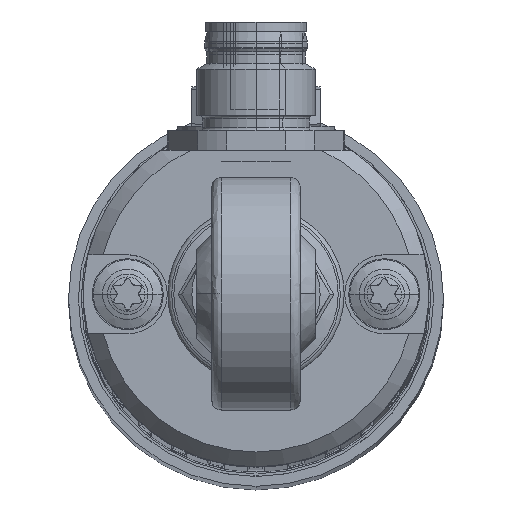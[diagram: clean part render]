
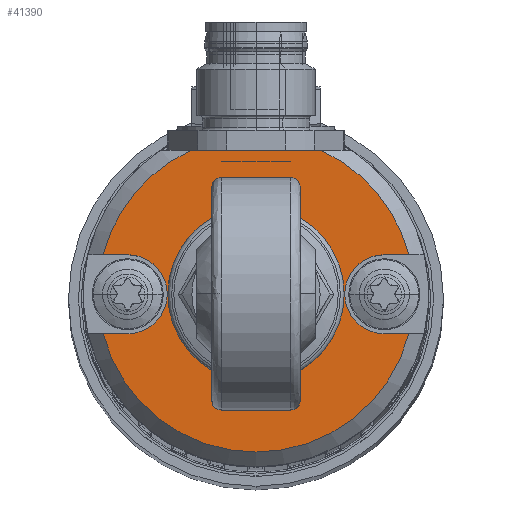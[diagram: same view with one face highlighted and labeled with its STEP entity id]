
A CAD part, top view. The second image highlights one B-rep face of the part: STEP entity #41390.
In plain terms, the highlighted planar face has unit normal (0, 0, 1).
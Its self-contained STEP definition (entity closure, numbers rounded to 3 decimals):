
#7970 = CARTESIAN_POINT ( 'NONE',  ( 0., -4.3, 279.7 ) ) ;
#7971 = DIRECTION ( 'NONE',  ( 0., -1., 0. ) ) ;
#7972 = DIRECTION ( 'NONE',  ( 0., 0., 1. ) ) ;
#7973 = CARTESIAN_POINT ( 'NONE',  ( 0., 0., 279.7 ) ) ;
#7974 = AXIS2_PLACEMENT_3D ( 'NONE', #7973, #7972, #7971 ) ;
#7975 = CIRCLE ( 'NONE', #7974, 4.3 ) ;
#7976 = CARTESIAN_POINT ( 'NONE',  ( 0., 4.3, 279.7 ) ) ;
#8163 = FACE_OUTER_BOUND ( 'NONE', #41395, .T. ) ;
#8168 = FACE_BOUND ( 'NONE', #41391, .T. ) ;
#8193 = DIRECTION ( 'NONE',  ( 0., -1., 0. ) ) ;
#8194 = DIRECTION ( 'NONE',  ( 0., 0., 1. ) ) ;
#8195 = CARTESIAN_POINT ( 'NONE',  ( 0., 0., 279.7 ) ) ;
#8196 = AXIS2_PLACEMENT_3D ( 'NONE', #8195, #8194, #8193 ) ;
#8197 = DIRECTION ( 'NONE',  ( 0., 1., 0. ) ) ;
#8198 = DIRECTION ( 'NONE',  ( 0., 0., -1. ) ) ;
#8199 = CARTESIAN_POINT ( 'NONE',  ( 0., 0., 279.7 ) ) ;
#8200 = AXIS2_PLACEMENT_3D ( 'NONE', #8199, #8198, #8197 ) ;
#8201 = CIRCLE ( 'NONE', #8196, 4.3 ) ;
#8202 = PLANE ( 'NONE',  #8200 ) ;
#8300 = DIRECTION ( 'NONE',  ( 1., 0., 0. ) ) ;
#8301 = VECTOR ( 'NONE', #8300, 1000. ) ;
#8302 = CARTESIAN_POINT ( 'NONE',  ( 0., 4., 279.7 ) ) ;
#8303 = LINE ( 'NONE', #8302, #8301 ) ;
#8304 = CARTESIAN_POINT ( 'NONE',  ( 13., -4., 279.7 ) ) ;
#8305 = DIRECTION ( 'NONE',  ( 1., 0., 0. ) ) ;
#8306 = VECTOR ( 'NONE', #8305, 1000. ) ;
#8307 = CARTESIAN_POINT ( 'NONE',  ( 13., -4., 279.7 ) ) ;
#8308 = LINE ( 'NONE', #8307, #8306 ) ;
#8309 = CARTESIAN_POINT ( 'NONE',  ( 15.492, -4., 279.7 ) ) ;
#8310 = DIRECTION ( 'NONE',  ( 0., 1., 0. ) ) ;
#8311 = DIRECTION ( 'NONE',  ( 0., 0., 1. ) ) ;
#8312 = CARTESIAN_POINT ( 'NONE',  ( 0., 0., 279.7 ) ) ;
#8313 = AXIS2_PLACEMENT_3D ( 'NONE', #8312, #8311, #8310 ) ;
#8314 = CIRCLE ( 'NONE', #8313, 16. ) ;
#8316 = CARTESIAN_POINT ( 'NONE',  ( -15.492, -4., 279.7 ) ) ;
#8317 = DIRECTION ( 'NONE',  ( -1., 0., 0. ) ) ;
#8318 = VECTOR ( 'NONE', #8317, 1000. ) ;
#8319 = CARTESIAN_POINT ( 'NONE',  ( 0., -4., 279.7 ) ) ;
#8320 = LINE ( 'NONE', #8319, #8318 ) ;
#8321 = CARTESIAN_POINT ( 'NONE',  ( -13., -4., 279.7 ) ) ;
#8322 = DIRECTION ( 'NONE',  ( 0., -1., 0. ) ) ;
#8323 = DIRECTION ( 'NONE',  ( 0., 0., 1. ) ) ;
#8324 = CARTESIAN_POINT ( 'NONE',  ( -13., 0., 279.7 ) ) ;
#8325 = AXIS2_PLACEMENT_3D ( 'NONE', #8324, #8323, #8322 ) ;
#8326 = CIRCLE ( 'NONE', #8325, 4. ) ;
#8327 = CARTESIAN_POINT ( 'NONE',  ( -13., 4., 279.7 ) ) ;
#8328 = DIRECTION ( 'NONE',  ( -1., 0., 0. ) ) ;
#8329 = VECTOR ( 'NONE', #8328, 1000. ) ;
#8330 = CARTESIAN_POINT ( 'NONE',  ( -20., 4., 279.7 ) ) ;
#8331 = LINE ( 'NONE', #8330, #8329 ) ;
#8350 = CARTESIAN_POINT ( 'NONE',  ( -15.492, 4., 279.7 ) ) ;
#8351 = DIRECTION ( 'NONE',  ( 0., 1., 0. ) ) ;
#8352 = DIRECTION ( 'NONE',  ( 0., 0., 1. ) ) ;
#8353 = CARTESIAN_POINT ( 'NONE',  ( 0., 0., 279.7 ) ) ;
#8354 = AXIS2_PLACEMENT_3D ( 'NONE', #8353, #8352, #8351 ) ;
#8355 = CIRCLE ( 'NONE', #8354, 16. ) ;
#8356 = CARTESIAN_POINT ( 'NONE',  ( -6.545, 14.6, 279.7 ) ) ;
#8357 = DIRECTION ( 'NONE',  ( -1., 0., 0. ) ) ;
#8358 = VECTOR ( 'NONE', #8357, 1000. ) ;
#8359 = CARTESIAN_POINT ( 'NONE',  ( 0., 14.6, 279.7 ) ) ;
#8360 = LINE ( 'NONE', #8359, #8358 ) ;
#8361 = CARTESIAN_POINT ( 'NONE',  ( 6.545, 14.6, 279.7 ) ) ;
#8362 = DIRECTION ( 'NONE',  ( 0., 1., 0. ) ) ;
#8363 = DIRECTION ( 'NONE',  ( 0., 0., 1. ) ) ;
#8364 = CARTESIAN_POINT ( 'NONE',  ( 0., 0., 279.7 ) ) ;
#8365 = AXIS2_PLACEMENT_3D ( 'NONE', #8364, #8363, #8362 ) ;
#8366 = CIRCLE ( 'NONE', #8365, 16. ) ;
#8367 = CARTESIAN_POINT ( 'NONE',  ( 15.492, 4., 279.7 ) ) ;
#8368 = CARTESIAN_POINT ( 'NONE',  ( 13., 4., 279.7 ) ) ;
#8489 = DIRECTION ( 'NONE',  ( 0., -1., 0. ) ) ;
#8490 = DIRECTION ( 'NONE',  ( 0., 0., 1. ) ) ;
#8491 = CARTESIAN_POINT ( 'NONE',  ( 13., 0., 279.7 ) ) ;
#8492 = AXIS2_PLACEMENT_3D ( 'NONE', #8491, #8490, #8489 ) ;
#8493 = CIRCLE ( 'NONE', #8492, 4. ) ;
#41311 = VERTEX_POINT ( 'NONE', #7976 ) ;
#41313 = EDGE_CURVE ( 'NONE', #41311, #41314, #7975, .T. ) ;
#41314 = VERTEX_POINT ( 'NONE', #7970 ) ;
#41390 = ADVANCED_FACE ( 'NONE', ( #8168, #8163 ), #8202, .F. ) ;
#41391 = EDGE_LOOP ( 'NONE', ( #41392, #41394 ) ) ;
#41392 = ORIENTED_EDGE ( 'NONE', *, *, #41393, .F. ) ;
#41393 = EDGE_CURVE ( 'NONE', #41314, #41311, #8201, .T. ) ;
#41394 = ORIENTED_EDGE ( 'NONE', *, *, #41313, .F. ) ;
#41395 = EDGE_LOOP ( 'NONE', ( #41457, #41461, #41464, #41467, #41441, #41444, #41447, #41450, #41453, #41511 ) ) ;
#41441 = ORIENTED_EDGE ( 'NONE', *, *, #41442, .F. ) ;
#41442 = EDGE_CURVE ( 'NONE', #41443, #41469, #8331, .T. ) ;
#41443 = VERTEX_POINT ( 'NONE', #8327 ) ;
#41444 = ORIENTED_EDGE ( 'NONE', *, *, #41445, .F. ) ;
#41445 = EDGE_CURVE ( 'NONE', #41446, #41443, #8326, .T. ) ;
#41446 = VERTEX_POINT ( 'NONE', #8321 ) ;
#41447 = ORIENTED_EDGE ( 'NONE', *, *, #41448, .T. ) ;
#41448 = EDGE_CURVE ( 'NONE', #41446, #41449, #8320, .T. ) ;
#41449 = VERTEX_POINT ( 'NONE', #8316 ) ;
#41450 = ORIENTED_EDGE ( 'NONE', *, *, #41451, .T. ) ;
#41451 = EDGE_CURVE ( 'NONE', #41449, #41452, #8314, .T. ) ;
#41452 = VERTEX_POINT ( 'NONE', #8309 ) ;
#41453 = ORIENTED_EDGE ( 'NONE', *, *, #41454, .F. ) ;
#41454 = EDGE_CURVE ( 'NONE', #41455, #41452, #8308, .T. ) ;
#41455 = VERTEX_POINT ( 'NONE', #8304 ) ;
#41457 = ORIENTED_EDGE ( 'NONE', *, *, #41458, .T. ) ;
#41458 = EDGE_CURVE ( 'NONE', #41459, #41460, #8303, .T. ) ;
#41459 = VERTEX_POINT ( 'NONE', #8368 ) ;
#41460 = VERTEX_POINT ( 'NONE', #8367 ) ;
#41461 = ORIENTED_EDGE ( 'NONE', *, *, #41462, .T. ) ;
#41462 = EDGE_CURVE ( 'NONE', #41460, #41463, #8366, .T. ) ;
#41463 = VERTEX_POINT ( 'NONE', #8361 ) ;
#41464 = ORIENTED_EDGE ( 'NONE', *, *, #41465, .T. ) ;
#41465 = EDGE_CURVE ( 'NONE', #41463, #41466, #8360, .T. ) ;
#41466 = VERTEX_POINT ( 'NONE', #8356 ) ;
#41467 = ORIENTED_EDGE ( 'NONE', *, *, #41468, .T. ) ;
#41468 = EDGE_CURVE ( 'NONE', #41466, #41469, #8355, .T. ) ;
#41469 = VERTEX_POINT ( 'NONE', #8350 ) ;
#41511 = ORIENTED_EDGE ( 'NONE', *, *, #41512, .F. ) ;
#41512 = EDGE_CURVE ( 'NONE', #41459, #41455, #8493, .T. ) ;
